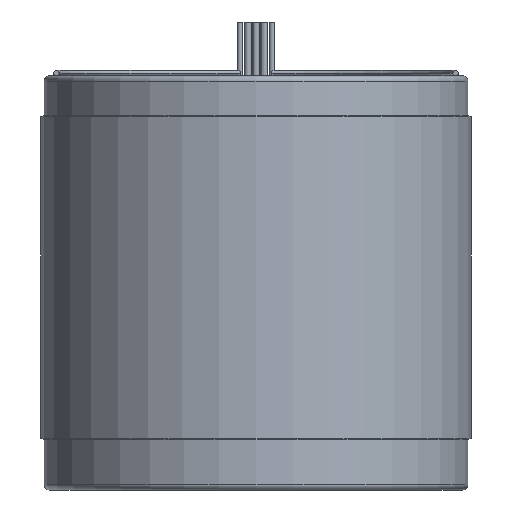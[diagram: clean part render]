
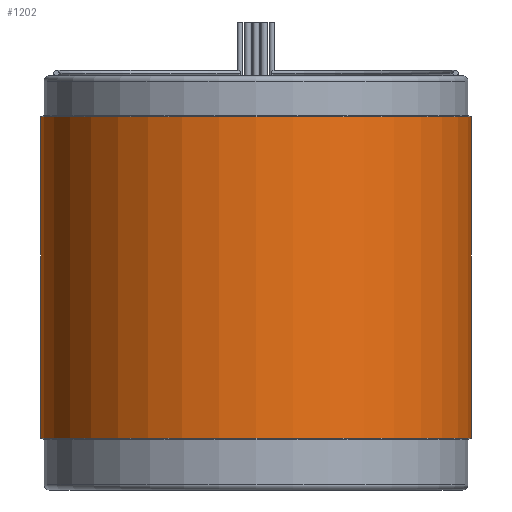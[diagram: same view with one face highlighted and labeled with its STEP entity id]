
A CAD part, front view. The second image highlights one B-rep face of the part: STEP entity #1202.
In plain terms, the highlighted cylindrical face has radius 101.6 mm (diameter 203.2 mm), a partial arc.
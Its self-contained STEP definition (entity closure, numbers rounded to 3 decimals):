
#3 = AXIS2_PLACEMENT_3D ( 'NONE', #268, #297, #570 ) ;
#141 = EDGE_CURVE ( 'NONE', #3260, #2589, #3437, .T. ) ;
#142 = DIRECTION ( 'NONE',  ( 0., 0., 1. ) ) ;
#268 = CARTESIAN_POINT ( 'NONE',  ( 0., 0., 75.844 ) ) ;
#297 = DIRECTION ( 'NONE',  ( 0., 0., -1. ) ) ;
#431 = CARTESIAN_POINT ( 'NONE',  ( 0., 0., -75.844 ) ) ;
#466 = EDGE_CURVE ( 'NONE', #2790, #2589, #2252, .T. ) ;
#495 = EDGE_CURVE ( 'NONE', #2487, #3260, #1183, .T. ) ;
#566 = ORIENTED_EDGE ( 'NONE', *, *, #466, .T. ) ;
#570 = DIRECTION ( 'NONE',  ( -1., 0., 0. ) ) ;
#764 = EDGE_LOOP ( 'NONE', ( #2679, #3037, #1017, #566 ) ) ;
#781 = AXIS2_PLACEMENT_3D ( 'NONE', #1698, #142, #1971 ) ;
#879 = CARTESIAN_POINT ( 'NONE',  ( -101.6, 0., 75.844 ) ) ;
#1000 = CYLINDRICAL_SURFACE ( 'NONE', #3, 101.6 ) ;
#1017 = ORIENTED_EDGE ( 'NONE', *, *, #2343, .T. ) ;
#1183 = CIRCLE ( 'NONE', #781, 101.6 ) ;
#1184 = VECTOR ( 'NONE', #2690, 1000. ) ;
#1185 = CARTESIAN_POINT ( 'NONE',  ( 101.6, 0., 75.844 ) ) ;
#1202 = ADVANCED_FACE ( 'NONE', ( #3324 ), #1000, .T. ) ;
#1237 = CARTESIAN_POINT ( 'NONE',  ( 101.6, 0., 75.844 ) ) ;
#1698 = CARTESIAN_POINT ( 'NONE',  ( 0., 0., 75.844 ) ) ;
#1955 = AXIS2_PLACEMENT_3D ( 'NONE', #431, #3320, #2794 ) ;
#1971 = DIRECTION ( 'NONE',  ( 1., 0., 0. ) ) ;
#2000 = LINE ( 'NONE', #879, #1184 ) ;
#2129 = VECTOR ( 'NONE', #2231, 1000. ) ;
#2231 = DIRECTION ( 'NONE',  ( 0., 0., -1. ) ) ;
#2252 = CIRCLE ( 'NONE', #1955, 101.6 ) ;
#2343 = EDGE_CURVE ( 'NONE', #2487, #2790, #2000, .T. ) ;
#2487 = VERTEX_POINT ( 'NONE', #3044 ) ;
#2589 = VERTEX_POINT ( 'NONE', #2829 ) ;
#2631 = CARTESIAN_POINT ( 'NONE',  ( -101.6, 0., -75.844 ) ) ;
#2679 = ORIENTED_EDGE ( 'NONE', *, *, #141, .F. ) ;
#2690 = DIRECTION ( 'NONE',  ( 0., 0., -1. ) ) ;
#2790 = VERTEX_POINT ( 'NONE', #2631 ) ;
#2794 = DIRECTION ( 'NONE',  ( 1., 0., 0. ) ) ;
#2829 = CARTESIAN_POINT ( 'NONE',  ( 101.6, 0., -75.844 ) ) ;
#3037 = ORIENTED_EDGE ( 'NONE', *, *, #495, .F. ) ;
#3044 = CARTESIAN_POINT ( 'NONE',  ( -101.6, 0., 75.844 ) ) ;
#3260 = VERTEX_POINT ( 'NONE', #1237 ) ;
#3320 = DIRECTION ( 'NONE',  ( 0., 0., 1. ) ) ;
#3324 = FACE_OUTER_BOUND ( 'NONE', #764, .T. ) ;
#3437 = LINE ( 'NONE', #1185, #2129 ) ;
